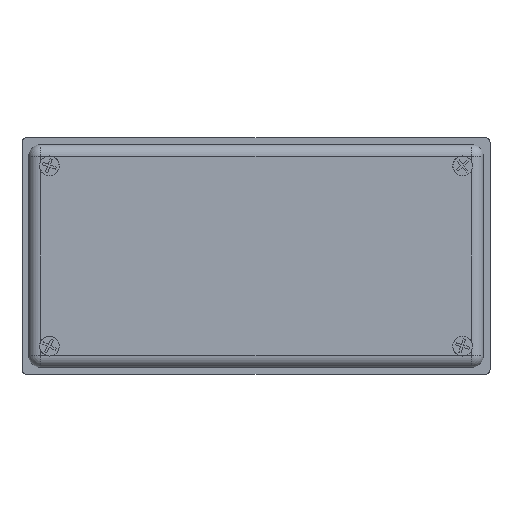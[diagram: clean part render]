
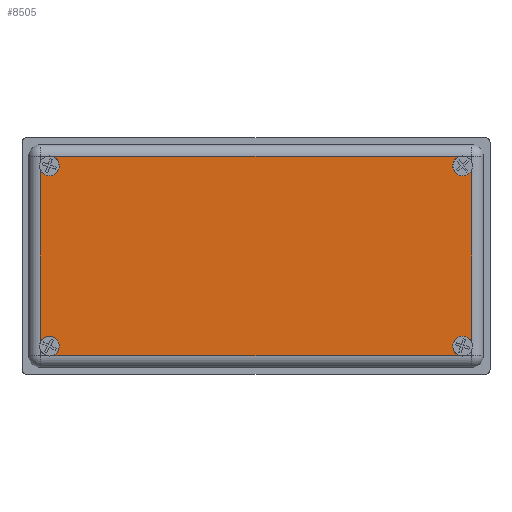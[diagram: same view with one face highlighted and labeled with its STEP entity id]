
A CAD part, front view. The second image highlights one B-rep face of the part: STEP entity #8505.
In plain terms, the highlighted planar face has unit normal (0, -1, 0).
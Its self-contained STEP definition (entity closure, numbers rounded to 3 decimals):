
#10 = LINE ( 'NONE', #7664, #3089 ) ;
#127 = CIRCLE ( 'NONE', #3031, 2.15 ) ;
#227 = ORIENTED_EDGE ( 'NONE', *, *, #406, .T. ) ;
#238 = CARTESIAN_POINT ( 'NONE',  ( 44.039, -22., -21.5 ) ) ;
#244 = VERTEX_POINT ( 'NONE', #6222 ) ;
#288 = VECTOR ( 'NONE', #2342, 1000. ) ;
#400 = AXIS2_PLACEMENT_3D ( 'NONE', #3248, #1291, #4532 ) ;
#406 = EDGE_CURVE ( 'NONE', #4899, #7865, #10, .T. ) ;
#448 = VERTEX_POINT ( 'NONE', #4995 ) ;
#458 = CIRCLE ( 'NONE', #1193, 2.15 ) ;
#526 = CARTESIAN_POINT ( 'NONE',  ( -46.5, -22., -18.611 ) ) ;
#632 = DIRECTION ( 'NONE',  ( 0., 0., -1. ) ) ;
#642 = CARTESIAN_POINT ( 'NONE',  ( 44.5, -22., -19.4 ) ) ;
#1043 = CARTESIAN_POINT ( 'NONE',  ( -44.5, -22., -19.4 ) ) ;
#1104 = CARTESIAN_POINT ( 'NONE',  ( -46.5, -22., -21.5 ) ) ;
#1193 = AXIS2_PLACEMENT_3D ( 'NONE', #7476, #7364, #5544 ) ;
#1261 = ORIENTED_EDGE ( 'NONE', *, *, #6067, .F. ) ;
#1291 = DIRECTION ( 'NONE',  ( 0., -1., 0. ) ) ;
#1337 = CIRCLE ( 'NONE', #8016, 2.15 ) ;
#1404 = CARTESIAN_POINT ( 'NONE',  ( 44.5, -22., 17.25 ) ) ;
#1541 = CARTESIAN_POINT ( 'NONE',  ( 0., -22., 0. ) ) ;
#1564 = AXIS2_PLACEMENT_3D ( 'NONE', #4950, #4750, #5863 ) ;
#1720 = EDGE_CURVE ( 'NONE', #4899, #6578, #8344, .T. ) ;
#1904 = EDGE_CURVE ( 'NONE', #5140, #6795, #3980, .T. ) ;
#1928 = EDGE_LOOP ( 'NONE', ( #5635, #227, #6331, #8379, #6794, #4828, #2756, #4794, #1261, #8321, #3036, #8131 ) ) ;
#2342 = DIRECTION ( 'NONE',  ( 0., 0., 1. ) ) ;
#2352 = CARTESIAN_POINT ( 'NONE',  ( 44.5, -22., -17.25 ) ) ;
#2510 = EDGE_CURVE ( 'NONE', #4385, #6795, #2545, .T. ) ;
#2545 = CIRCLE ( 'NONE', #400, 2.15 ) ;
#2586 = EDGE_CURVE ( 'NONE', #6225, #7865, #3058, .T. ) ;
#2629 = DIRECTION ( 'NONE',  ( 0., 0., -1. ) ) ;
#2641 = CARTESIAN_POINT ( 'NONE',  ( -46.5, -22., 18.611 ) ) ;
#2674 = CARTESIAN_POINT ( 'NONE',  ( 46.5, -22., -18.611 ) ) ;
#2756 = ORIENTED_EDGE ( 'NONE', *, *, #7895, .F. ) ;
#2759 = EDGE_CURVE ( 'NONE', #6556, #448, #7699, .T. ) ;
#2845 = VECTOR ( 'NONE', #7691, 1000. ) ;
#2849 = DIRECTION ( 'NONE',  ( 0., -1., 0. ) ) ;
#2872 = PLANE ( 'NONE',  #5243 ) ;
#2901 = DIRECTION ( 'NONE',  ( 0., 0., 1. ) ) ;
#2909 = DIRECTION ( 'NONE',  ( 0., -1., 0. ) ) ;
#3031 = AXIS2_PLACEMENT_3D ( 'NONE', #5934, #7000, #5014 ) ;
#3036 = ORIENTED_EDGE ( 'NONE', *, *, #4852, .T. ) ;
#3058 = CIRCLE ( 'NONE', #4331, 2.15 ) ;
#3086 = VERTEX_POINT ( 'NONE', #4347 ) ;
#3089 = VECTOR ( 'NONE', #5169, 1000. ) ;
#3248 = CARTESIAN_POINT ( 'NONE',  ( 44.5, -22., 19.4 ) ) ;
#3307 = DIRECTION ( 'NONE',  ( 0., -1., 0. ) ) ;
#3673 = CARTESIAN_POINT ( 'NONE',  ( -44.039, -22., -21.5 ) ) ;
#3980 = LINE ( 'NONE', #7589, #288 ) ;
#4160 = VERTEX_POINT ( 'NONE', #526 ) ;
#4331 = AXIS2_PLACEMENT_3D ( 'NONE', #642, #5844, #2629 ) ;
#4347 = CARTESIAN_POINT ( 'NONE',  ( 44.039, -22., 21.5 ) ) ;
#4385 = VERTEX_POINT ( 'NONE', #1404 ) ;
#4435 = LINE ( 'NONE', #7929, #8005 ) ;
#4526 = CARTESIAN_POINT ( 'NONE',  ( 44.5, -22., -19.4 ) ) ;
#4532 = DIRECTION ( 'NONE',  ( 0., 0., -1. ) ) ;
#4750 = DIRECTION ( 'NONE',  ( 0., -1., 0. ) ) ;
#4794 = ORIENTED_EDGE ( 'NONE', *, *, #5013, .T. ) ;
#4828 = ORIENTED_EDGE ( 'NONE', *, *, #2510, .F. ) ;
#4852 = EDGE_CURVE ( 'NONE', #6556, #4160, #7911, .T. ) ;
#4899 = VERTEX_POINT ( 'NONE', #3673 ) ;
#4950 = CARTESIAN_POINT ( 'NONE',  ( -44.5, -22., 19.4 ) ) ;
#4995 = CARTESIAN_POINT ( 'NONE',  ( -44.5, -22., 17.25 ) ) ;
#5013 = EDGE_CURVE ( 'NONE', #3086, #244, #4435, .T. ) ;
#5014 = DIRECTION ( 'NONE',  ( 0., 0., -1. ) ) ;
#5117 = CARTESIAN_POINT ( 'NONE',  ( -44.5, -22., -17.25 ) ) ;
#5140 = VERTEX_POINT ( 'NONE', #2674 ) ;
#5169 = DIRECTION ( 'NONE',  ( 1., 0., 0. ) ) ;
#5243 = AXIS2_PLACEMENT_3D ( 'NONE', #1541, #6800, #2901 ) ;
#5311 = CIRCLE ( 'NONE', #5894, 2.15 ) ;
#5544 = DIRECTION ( 'NONE',  ( 0., 0., -1. ) ) ;
#5635 = ORIENTED_EDGE ( 'NONE', *, *, #1720, .F. ) ;
#5819 = FACE_OUTER_BOUND ( 'NONE', #1928, .T. ) ;
#5844 = DIRECTION ( 'NONE',  ( 0., -1., 0. ) ) ;
#5863 = DIRECTION ( 'NONE',  ( 0., 0., -1. ) ) ;
#5894 = AXIS2_PLACEMENT_3D ( 'NONE', #4526, #3307, #632 ) ;
#5934 = CARTESIAN_POINT ( 'NONE',  ( -44.5, -22., -19.4 ) ) ;
#6067 = EDGE_CURVE ( 'NONE', #448, #244, #458, .T. ) ;
#6222 = CARTESIAN_POINT ( 'NONE',  ( -44.039, -22., 21.5 ) ) ;
#6225 = VERTEX_POINT ( 'NONE', #2352 ) ;
#6331 = ORIENTED_EDGE ( 'NONE', *, *, #2586, .F. ) ;
#6556 = VERTEX_POINT ( 'NONE', #2641 ) ;
#6578 = VERTEX_POINT ( 'NONE', #5117 ) ;
#6794 = ORIENTED_EDGE ( 'NONE', *, *, #1904, .T. ) ;
#6795 = VERTEX_POINT ( 'NONE', #7150 ) ;
#6800 = DIRECTION ( 'NONE',  ( 0., 1., 0. ) ) ;
#6808 = CARTESIAN_POINT ( 'NONE',  ( 44.5, -22., 19.4 ) ) ;
#7000 = DIRECTION ( 'NONE',  ( 0., -1., 0. ) ) ;
#7150 = CARTESIAN_POINT ( 'NONE',  ( 46.5, -22., 18.611 ) ) ;
#7257 = EDGE_CURVE ( 'NONE', #6578, #4160, #127, .T. ) ;
#7364 = DIRECTION ( 'NONE',  ( 0., -1., 0. ) ) ;
#7476 = CARTESIAN_POINT ( 'NONE',  ( -44.5, -22., 19.4 ) ) ;
#7499 = DIRECTION ( 'NONE',  ( 0., 0., -1. ) ) ;
#7507 = DIRECTION ( 'NONE',  ( 0., 0., -1. ) ) ;
#7589 = CARTESIAN_POINT ( 'NONE',  ( 46.5, -22., 21.5 ) ) ;
#7659 = EDGE_CURVE ( 'NONE', #5140, #6225, #5311, .T. ) ;
#7664 = CARTESIAN_POINT ( 'NONE',  ( 46.5, -22., -21.5 ) ) ;
#7691 = DIRECTION ( 'NONE',  ( 0., 0., -1. ) ) ;
#7695 = AXIS2_PLACEMENT_3D ( 'NONE', #1043, #2849, #7499 ) ;
#7699 = CIRCLE ( 'NONE', #1564, 2.15 ) ;
#7865 = VERTEX_POINT ( 'NONE', #238 ) ;
#7895 = EDGE_CURVE ( 'NONE', #3086, #4385, #1337, .T. ) ;
#7911 = LINE ( 'NONE', #1104, #2845 ) ;
#7929 = CARTESIAN_POINT ( 'NONE',  ( -46.5, -22., 21.5 ) ) ;
#8005 = VECTOR ( 'NONE', #8162, 1000. ) ;
#8016 = AXIS2_PLACEMENT_3D ( 'NONE', #6808, #2909, #7507 ) ;
#8131 = ORIENTED_EDGE ( 'NONE', *, *, #7257, .F. ) ;
#8162 = DIRECTION ( 'NONE',  ( -1., 0., 0. ) ) ;
#8321 = ORIENTED_EDGE ( 'NONE', *, *, #2759, .F. ) ;
#8344 = CIRCLE ( 'NONE', #7695, 2.15 ) ;
#8379 = ORIENTED_EDGE ( 'NONE', *, *, #7659, .F. ) ;
#8505 = ADVANCED_FACE ( 'NONE', ( #5819 ), #2872, .F. ) ;
